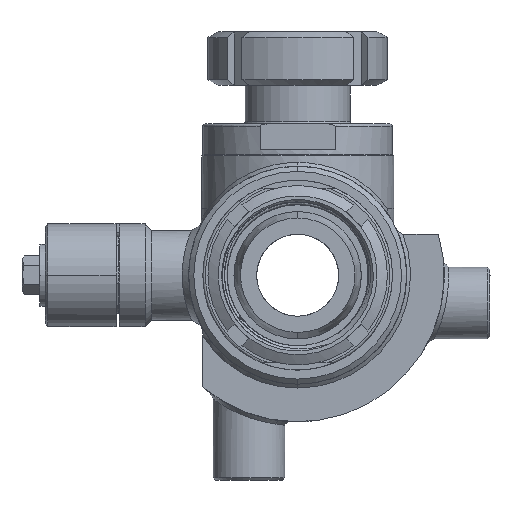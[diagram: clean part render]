
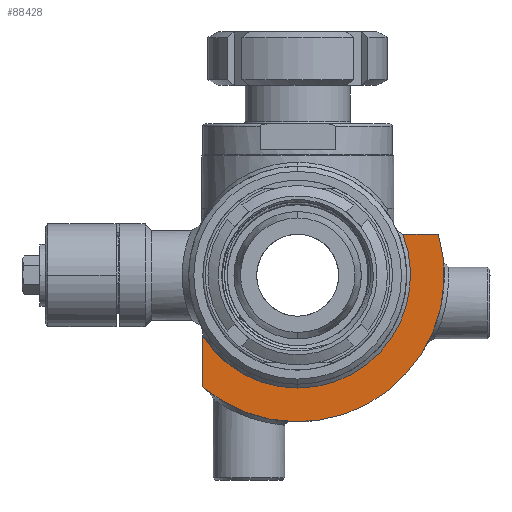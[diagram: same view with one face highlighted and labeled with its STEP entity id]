
A CAD part, left-side view. The second image highlights one B-rep face of the part: STEP entity #88428.
In plain terms, the highlighted planar face has unit normal (-1, 0, 0).
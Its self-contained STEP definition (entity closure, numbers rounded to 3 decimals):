
#3465=CARTESIAN_POINT('',(-43.,0.,0.));
#3466=DIRECTION('',(1.,0.,0.));
#3467=DIRECTION('',(0.,-0.932,0.364));
#3468=AXIS2_PLACEMENT_3D('',#3465,#3466,#3467);
#3473=DIRECTION('',(0.,-1.,0.));
#3474=VECTOR('',#3473,13.877);
#3475=CARTESIAN_POINT('',(-43.,-40.988,16.));
#3476=LINE('',#3475,#3474);
#3480=CARTESIAN_POINT('',(-43.,0.,0.));
#3481=DIRECTION('',(1.,0.,0.));
#3482=DIRECTION('',(0.,-0.96,0.28));
#3483=AXIS2_PLACEMENT_3D('',#3480,#3481,#3482);
#3488=DIRECTION('',(0.,0.,1.));
#3489=VECTOR('',#3488,19.744);
#3490=CARTESIAN_POINT('',(-43.,37.,-43.556));
#3491=LINE('',#3490,#3489);
#3495=CARTESIAN_POINT('',(-43.,0.,0.));
#3496=DIRECTION('',(1.,0.,0.));
#3497=DIRECTION('',(0.,0.,-1.));
#3498=AXIS2_PLACEMENT_3D('',#3495,#3496,#3497);
#85232=CARTESIAN_POINT('',(-43.,-54.865,16.));
#85233=CARTESIAN_POINT('',(-43.,37.,-43.556));
#85234=VERTEX_POINT('',#85232);
#85235=VERTEX_POINT('',#85233);
#85324=CARTESIAN_POINT('',(-43.,-40.988,16.));
#85325=CARTESIAN_POINT('',(-43.,0.,-44.));
#85326=VERTEX_POINT('',#85324);
#85327=VERTEX_POINT('',#85325);
#85328=CARTESIAN_POINT('',(-43.,37.,-23.812));
#85329=VERTEX_POINT('',#85328);
#88415=CARTESIAN_POINT('',(-43.,0.,0.));
#88416=DIRECTION('',(1.,0.,0.));
#88417=DIRECTION('',(0.,0.,-1.));
#88418=AXIS2_PLACEMENT_3D('',#88415,#88416,#88417);
#88419=PLANE('',#88418);
#88420=ORIENTED_EDGE('',*,*,#87935,.F.);
#88422=ORIENTED_EDGE('',*,*,#88421,.T.);
#88423=ORIENTED_EDGE('',*,*,#88150,.T.);
#88424=ORIENTED_EDGE('',*,*,#88108,.T.);
#88425=ORIENTED_EDGE('',*,*,#87909,.F.);
#88426=EDGE_LOOP('',(#88420,#88422,#88423,#88424,#88425));
#88427=FACE_OUTER_BOUND('',#88426,.F.);
#88428=ADVANCED_FACE('',(#88427),#88419,.F.);
#3469=CIRCLE('',#3468,44.);
#3484=CIRCLE('',#3483,57.15);
#3499=CIRCLE('',#3498,44.);
#87909=EDGE_CURVE('',#85327,#85329,#3499,.T.);
#87935=EDGE_CURVE('',#85326,#85327,#3469,.T.);
#88108=EDGE_CURVE('',#85235,#85329,#3491,.T.);
#88150=EDGE_CURVE('',#85234,#85235,#3484,.T.);
#88421=EDGE_CURVE('',#85326,#85234,#3476,.T.);
